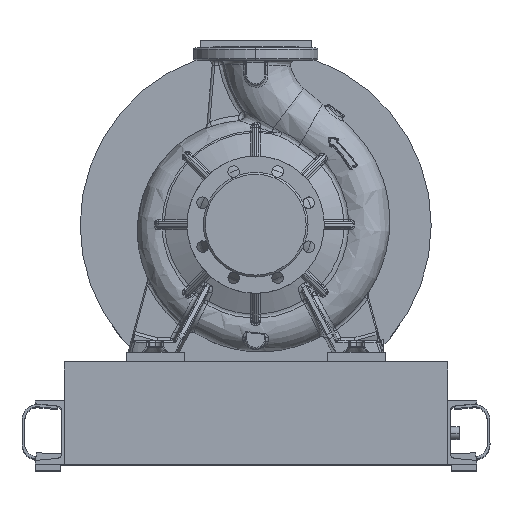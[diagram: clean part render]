
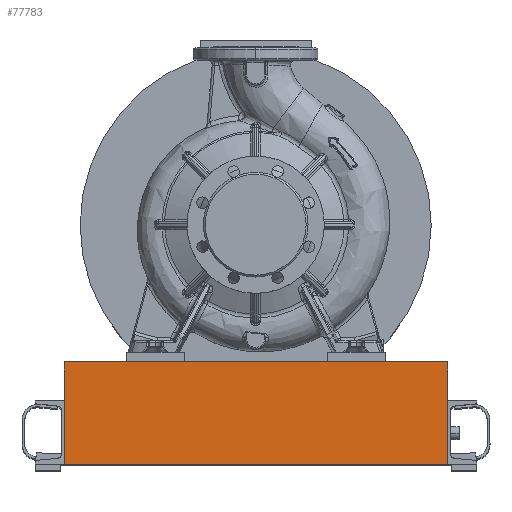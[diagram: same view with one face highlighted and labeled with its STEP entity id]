
A CAD part, top view. The second image highlights one B-rep face of the part: STEP entity #77783.
In plain terms, the highlighted planar face has unit normal (0, 0, 1).
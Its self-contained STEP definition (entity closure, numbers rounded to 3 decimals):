
#1224 = VECTOR ( 'NONE', #4190, 1000. ) ;
#4190 = DIRECTION ( 'NONE',  ( -1., 0., 0. ) ) ;
#9567 = ORIENTED_EDGE ( 'NONE', *, *, #24413, .T. ) ;
#10927 = LINE ( 'NONE', #50453, #55473 ) ;
#12746 = PLANE ( 'NONE',  #57728 ) ;
#14042 = LINE ( 'NONE', #19664, #18200 ) ;
#15172 = EDGE_CURVE ( 'NONE', #38897, #84605, #23088, .T. ) ;
#17110 = CARTESIAN_POINT ( 'NONE',  ( 300.5, -375., 100. ) ) ;
#18200 = VECTOR ( 'NONE', #59900, 1000. ) ;
#19664 = CARTESIAN_POINT ( 'NONE',  ( -299.5, -375., 100. ) ) ;
#23088 = LINE ( 'NONE', #37596, #1224 ) ;
#24413 = EDGE_CURVE ( 'NONE', #84605, #68142, #14042, .T. ) ;
#29313 = CARTESIAN_POINT ( 'NONE',  ( 300.5, -215., 100. ) ) ;
#36316 = CARTESIAN_POINT ( 'NONE',  ( 300.5, -375., 100. ) ) ;
#37596 = CARTESIAN_POINT ( 'NONE',  ( 300.5, -215., 100. ) ) ;
#38453 = ORIENTED_EDGE ( 'NONE', *, *, #53040, .F. ) ;
#38897 = VERTEX_POINT ( 'NONE', #29313 ) ;
#39162 = ORIENTED_EDGE ( 'NONE', *, *, #15172, .T. ) ;
#43753 = DIRECTION ( 'NONE',  ( -1., 0., 0. ) ) ;
#44013 = FACE_OUTER_BOUND ( 'NONE', #48037, .T. ) ;
#44397 = LINE ( 'NONE', #17110, #48554 ) ;
#44893 = CARTESIAN_POINT ( 'NONE',  ( -299.5, -215., 100. ) ) ;
#48037 = EDGE_LOOP ( 'NONE', ( #9567, #53937, #38453, #39162 ) ) ;
#48554 = VECTOR ( 'NONE', #43753, 1000. ) ;
#50453 = CARTESIAN_POINT ( 'NONE',  ( 300.5, -295., 100. ) ) ;
#53040 = EDGE_CURVE ( 'NONE', #38897, #72599, #10927, .T. ) ;
#53937 = ORIENTED_EDGE ( 'NONE', *, *, #65654, .F. ) ;
#55473 = VECTOR ( 'NONE', #69901, 1000. ) ;
#57728 = AXIS2_PLACEMENT_3D ( 'NONE', #59363, #71867, #72439 ) ;
#59363 = CARTESIAN_POINT ( 'NONE',  ( 300.5, -375., 100. ) ) ;
#59900 = DIRECTION ( 'NONE',  ( 0., -1., 0. ) ) ;
#65654 = EDGE_CURVE ( 'NONE', #72599, #68142, #44397, .T. ) ;
#65908 = CARTESIAN_POINT ( 'NONE',  ( -299.5, -375., 100. ) ) ;
#68142 = VERTEX_POINT ( 'NONE', #65908 ) ;
#69901 = DIRECTION ( 'NONE',  ( 0., -1., 0. ) ) ;
#71867 = DIRECTION ( 'NONE',  ( 0., 0., -1. ) ) ;
#72439 = DIRECTION ( 'NONE',  ( -1., 0., 0. ) ) ;
#72599 = VERTEX_POINT ( 'NONE', #36316 ) ;
#77783 = ADVANCED_FACE ( 'NONE', ( #44013 ), #12746, .F. ) ;
#84605 = VERTEX_POINT ( 'NONE', #44893 ) ;
